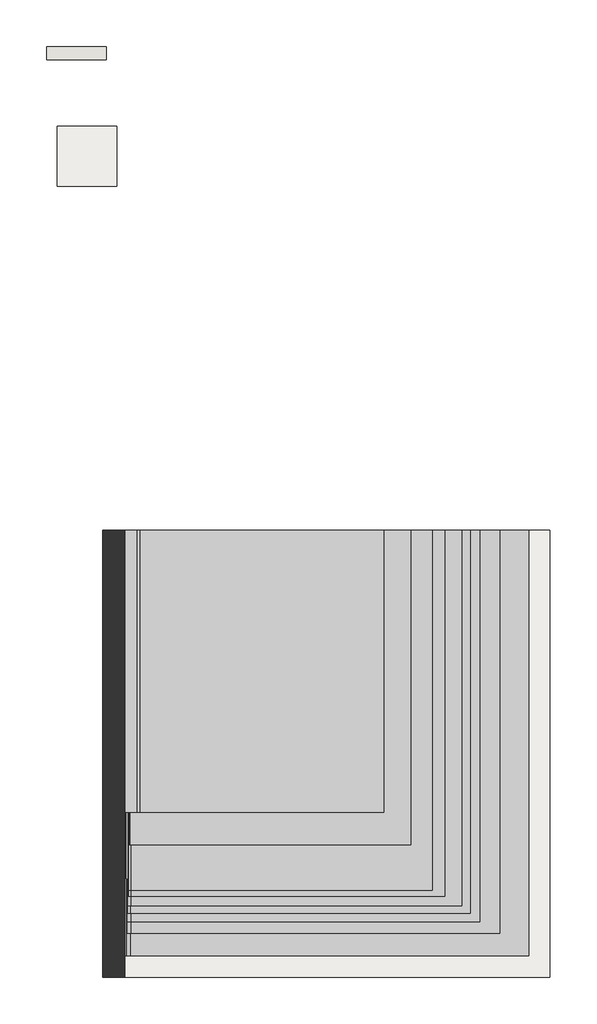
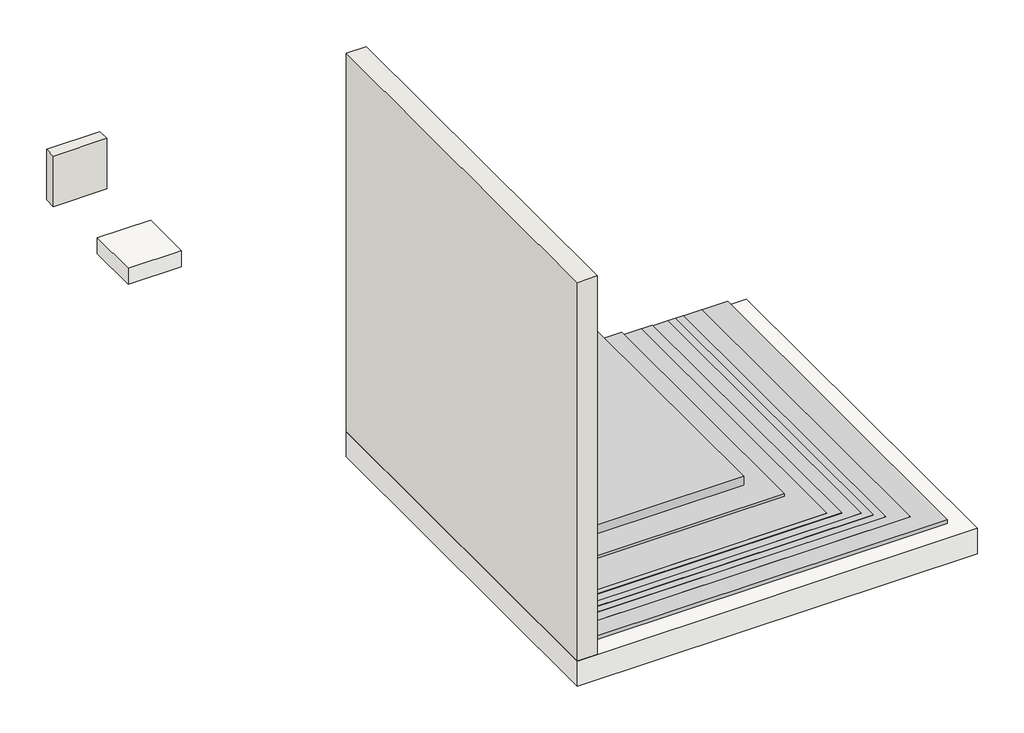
# One storey: 2 slabs, 2 walls, 1 proxy.
"""IFC4 building model written with IfcOpenShell, lengths in millimetres."""

from ifc_helpers import new_model, si_unit, frame, origin, place, context, project, spatial, polyline, outline, extrude, transform, mapped, element, save
from components import generic_models_c6a0f61b

model = new_model("IFC4")

# Units and contexts
model_context = context("Model", 3, world=origin())
ifc_project = project(units=[si_unit("LENGTHUNIT", "METRE", prefix="MILLI")], contexts=[model_context])

# Site, building, storey
site = spatial("IfcSite", under=ifc_project)
building = spatial("IfcBuilding", under=site)
storey = spatial("IfcBuildingStorey", under=building, Name="ARQ Térreo", Elevation=-2.523798)

# Proxy
placement = place(None, origin())
generic_models_shape = generic_models_c6a0f61b(model_context)
element("IfcBuildingElementProxy", 1, Name="IMPER:IMPER:433934 : IMPER:IMPER:433934", ObjectType="IMPER:IMPER:433934 : IMPER:IMPER:433934", at=placement, inside=storey, context=model_context, shape_type="MappedRepresentation", body=[
    mapped(generic_models_shape, transform((0.0, 0.0, 0.0), x_axis=(1.0, 0.0, 0.0), y_axis=(0.0, 1.0, 0.0), z_axis=(0.0, 0.0, 1.0))),
])

# Slabs
element("IfcSlab", 2, ObjectType="IMPH_TEXTRA4AA", at=placement, inside=storey, context=model_context, shape_type="SweptSolid", body=[
    extrude(outline(polyline([(-807.5879339, 2853.2079203), (-407.5879339, 2853.2079203), (-407.5879339, 2453.2079203), (-807.5879339, 2453.2079203), (-807.5879339, 2853.2079203)])), frame((0.0, 0.0, -129.523798), z_axis=(0.0, 0.0, 1.0), x_axis=(1.0, 0.0, 0.0)), (0.0, 0.0, 1.0), 127.0),
])
element("IfcSlab", 3, ObjectType="Piso:LAJE CONCRETO", at=placement, inside=storey, context=model_context, shape_type="SweptSolid", body=[
    extrude(outline(polyline([(-502.9704105, 145.8700195), (2498.0295895, 145.8700195), (2498.0295895, -2854.1299805), (-502.9704105, -2854.1299805), (-502.9704105, 145.8700195)])), frame((0.0, 0.0, -203.523798), z_axis=(0.0, 0.0, 1.0), x_axis=(1.0, 0.0, 0.0)), (0.0, 0.0, 1.0), 200.0),
])

# Walls
element("IfcWall", 4, ObjectType="Parede básica:Parede Concreto", at=placement, inside=storey, context=model_context, shape_type="SweptSolid", body=[
    extrude(outline(polyline([(-502.9704105, -2854.1299805), (-502.9704105, 145.8700195), (-352.9704105, 145.8700195), (-352.9704105, -2854.1299805), (-502.9704105, -2854.1299805)])), frame((0.0, 0.0, -3.523798), z_axis=(0.0, 0.0, 1.0), x_axis=(1.0, 0.0, 0.0)), (0.0, 0.0, 1.0), 3000.0),
])
element("IfcWall", 5, ObjectType="IMPV_TEXTRA4AA", at=placement, inside=storey, context=model_context, shape_type="SweptSolid", body=[
    extrude(outline(polyline([(-878.4579685, 3389.3700195), (-478.4579685, 3389.3700195), (-478.4579685, 3302.3700195), (-878.4579685, 3302.3700195), (-878.4579685, 3389.3700195)])), frame((0.0, 0.0, -2.523798), z_axis=(0.0, 0.0, 1.0), x_axis=(1.0, 0.0, 0.0)), (0.0, 0.0, 1.0), 400.0),
])

save(model, "model.ifc")
